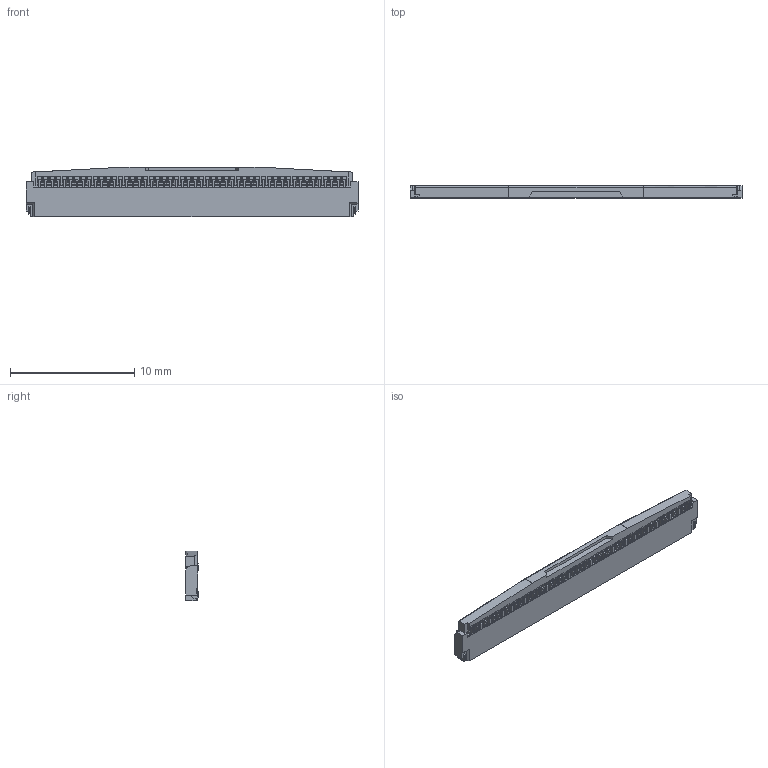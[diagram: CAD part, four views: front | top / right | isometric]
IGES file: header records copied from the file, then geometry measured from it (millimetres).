
Start section: SolidWorks IGES file using analytic representation for surfaces
Global section: file name: Q:\MINIFLEX5-BFNII共有\◆3Dデータ\新しいフォルダー\20586-050E-01 ASSY ACT CLOSE IGES R2 ALL.IGS,15HSolidWorks; native system: 2012; preprocessor: SolidWorks 2012; author: ieng2-005; date: 150928.110119; units: millimetre
Bounding box: 26.7 x 1 x 4 mm (x, y, z)
Surface area: 300 mm2 (no closed solid volume)
Topology: 0 solids, 0 shells, 1043 faces, 6956 edges, 6954 vertices
Faces by surface type: bspline 780, revolution 263
